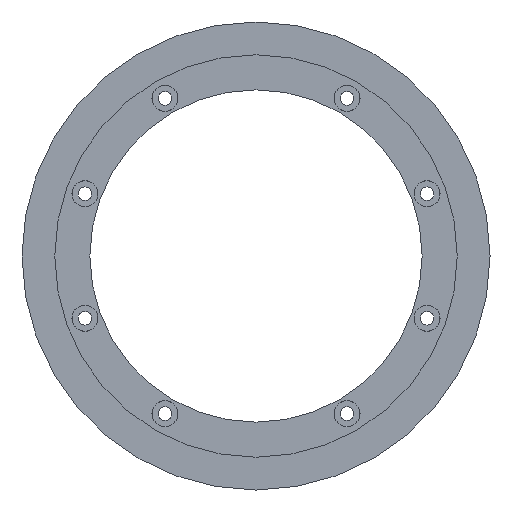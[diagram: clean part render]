
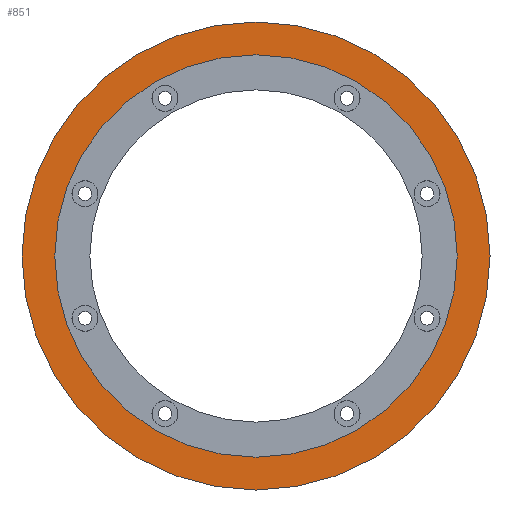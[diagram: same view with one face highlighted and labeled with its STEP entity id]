
A CAD part, front view. The second image highlights one B-rep face of the part: STEP entity #851.
In plain terms, the highlighted planar face has unit normal (0, -1, 0) as drawn and (0, 0, 1) by its records, which use the part's own axes.
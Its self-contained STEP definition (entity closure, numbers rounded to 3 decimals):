
#53=FACE_BOUND('',#192,.T.);
#65=PLANE('',#1058);
#125=FACE_OUTER_BOUND('',#191,.T.);
#191=EDGE_LOOP('',(#799,#800));
#192=EDGE_LOOP('',(#801));
#340=CIRCLE('',#1052,43.);
#343=CIRCLE('',#1056,50.);
#344=CIRCLE('',#1057,50.);
#434=VERTEX_POINT('',#1612);
#437=VERTEX_POINT('',#1620);
#438=VERTEX_POINT('',#1622);
#555=EDGE_CURVE('',#434,#434,#340,.T.);
#559=EDGE_CURVE('',#438,#437,#343,.T.);
#560=EDGE_CURVE('',#437,#438,#344,.T.);
#799=ORIENTED_EDGE('',*,*,#559,.T.);
#800=ORIENTED_EDGE('',*,*,#560,.T.);
#801=ORIENTED_EDGE('',*,*,#555,.T.);
#851=ADVANCED_FACE('',(#125,#53),#65,.T.);
#1052=AXIS2_PLACEMENT_3D('',#1614,#1347,#1348);
#1056=AXIS2_PLACEMENT_3D('',#1623,#1356,#1357);
#1057=AXIS2_PLACEMENT_3D('',#1624,#1358,#1359);
#1058=AXIS2_PLACEMENT_3D('',#1625,#1360,#1361);
#1347=DIRECTION('center_axis',(0.,0.,-1.));
#1348=DIRECTION('ref_axis',(-1.,0.,0.));
#1356=DIRECTION('center_axis',(0.,0.,1.));
#1357=DIRECTION('ref_axis',(1.,0.,0.));
#1358=DIRECTION('center_axis',(0.,0.,1.));
#1359=DIRECTION('ref_axis',(1.,0.,0.));
#1360=DIRECTION('center_axis',(0.,0.,1.));
#1361=DIRECTION('ref_axis',(1.,0.,0.));
#1612=CARTESIAN_POINT('',(43.,1.,0.));
#1614=CARTESIAN_POINT('Origin',(0.,1.,0.));
#1620=CARTESIAN_POINT('',(-50.,1.,0.));
#1622=CARTESIAN_POINT('',(50.,1.,0.));
#1623=CARTESIAN_POINT('Origin',(0.,1.,0.));
#1624=CARTESIAN_POINT('Origin',(0.,1.,0.));
#1625=CARTESIAN_POINT('Origin',(0.,1.,0.));
